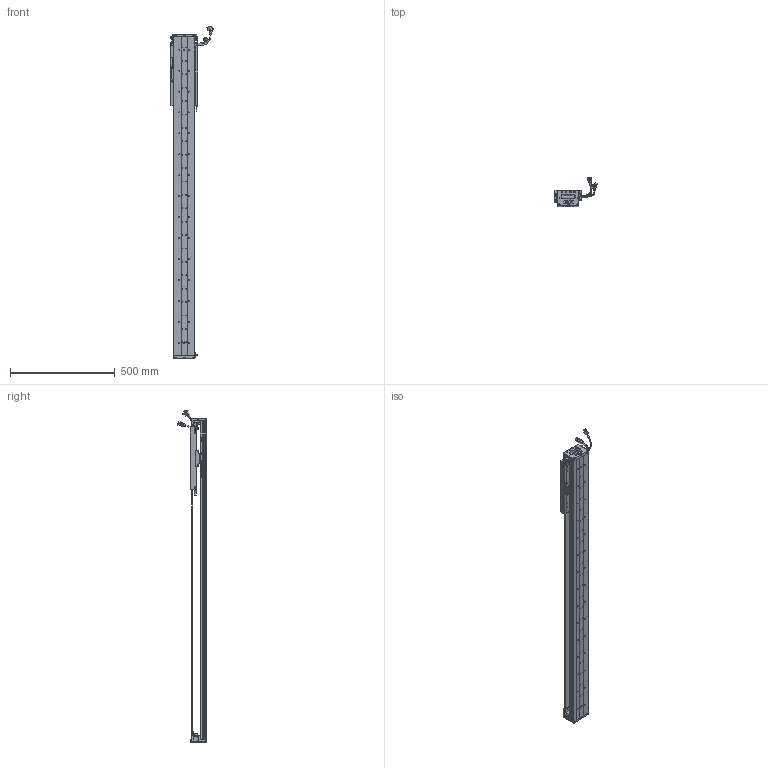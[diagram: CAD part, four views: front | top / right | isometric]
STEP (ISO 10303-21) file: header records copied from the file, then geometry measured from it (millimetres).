
FILE_DESCRIPTION (( 'STEP AP203' ), '1' );
FILE_NAME ('Z4-RY100D-1-L500-B-K.SLDASM_1150.step', '2021-05-17T03:02:34', ( '盈信电脑' ), ( '东莞市道滘镇水果街19号' ), 'SwSTEP 2.0', 'SolidWorks 2016', '' );
FILE_SCHEMA (( 'CONFIG_CONTROL_DESIGN' ));
Length unit declared in the file: millimetre
Products named in the file (36): COVER; 榋妏寠巭燃_暯_M2_2; Z-RY100D詩湍狟揤裔; Z4-RY100D-1-L500-B-K.SLDASM_1150; SCREW-M1.6-2; Z-RY100D覜茼んえ; SCALE-Part-2; HARNESS-Part-1; SEAL; SCREW-M1.7-1; Z4-RY100铝滑块（21款）; Z-100詩湍傷裔啣; 覜茼ん672; 080黍杅芛假蚾釱21遴; PBU_SHEET; 140雄赽晤鎢ん堤盄; SCALE; SEAL-Part-1; COVER-Part-1; SHIELDPLATE; Z4-RY100-L500詩湍90mm遵_1150; SCREW-M1.6-1; LABEL; SCREW-M1.6; HOLDER0; LABEL-Part-1; PSLH080_PSLF2; SCALE-Part-1; Z4-RY100D-500-倰第菁釱_1150; 140蚥薯蝶輸; HARNESS-Part-2; Z-RY100D詩湍奻揤裔; SCREW-M1.6-3; 100-Z-臏賑輸盄裔(21遴); SCREW-M1.7; HARNESS
Assembly tree (43 placements, depth 4):
  Z4-RY100D-1-L500-B-K.SLDASM_1150
    Z4-RY100D-500-倰第菁釱_1150
    Z4-RY100铝滑块（21款）
    PSLH080_PSLF2
      SCALE
        SCALE-Part-1
        SCALE-Part-2
      HARNESS
        HARNESS-Part-1
        HARNESS-Part-2
      LABEL
        LABEL-Part-1
      COVER
        COVER-Part-1
      SEAL
        SEAL-Part-1
      榋妏寠巭燃_暯_M2_2
      SHIELDPLATE
      SCREW-M1.7
      SCREW-M1.7-1
      PBU_SHEET
      SCREW-M1.6
      SCREW-M1.6-1
      SCREW-M1.6-2
      SCREW-M1.6-3
      HOLDER0
    080黍杅芛假蚾釱21遴
    Z-100詩湍傷裔啣  x2
    140蚥薯蝶輸  x2
    覜茼ん672  x3
    Z-RY100D覜茼んえ  x3
    100-Z-臏賑輸盄裔(21遴)
    140雄赽晤鎢ん堤盄
    Z4-RY100-L500詩湍90mm遵_1150
    Z-RY100D詩湍狟揤裔  x2
    Z-RY100D詩湍奻揤裔  x2
Bounding box: 205.83 x 136.11 x 1585.43 mm (x, y, z)
Volume: 3262467.3 mm3; surface area: 1245132.5 mm2
Topology: 38 solids, 38 shells, 2714 faces, 7213 edges, 4576 vertices
Faces by surface type: cylinder 1226, plane 1140, cone 226, torus 69, bspline 53
Entity records: 75301 total; most frequent: CARTESIAN_POINT 15830, DIRECTION 12001, ORIENTED_EDGE 11306, EDGE_CURVE 5653, AXIS2_PLACEMENT_3D 4447, VERTEX_POINT 3644, LINE 3107, VECTOR 3107
